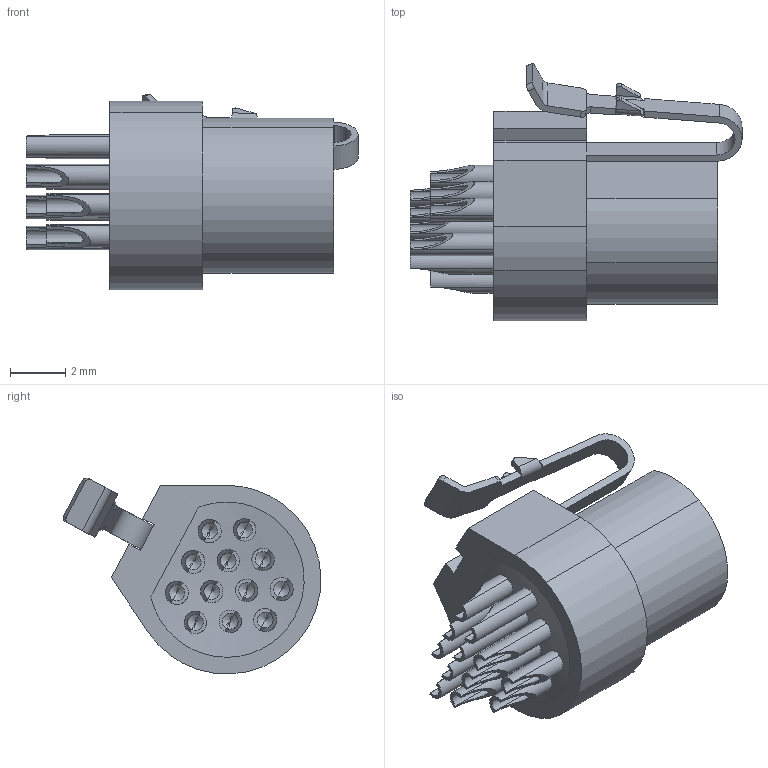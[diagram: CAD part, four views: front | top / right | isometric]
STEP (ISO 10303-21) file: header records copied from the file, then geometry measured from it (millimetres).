
FILE_DESCRIPTION (( 'STEP AP214' ), '1' );
FILE_NAME ('A22029-001 REV C.STEP', '2014-04-21T20:59:58', ( '' ), ( '' ), 'SwSTEP 2.0', 'SolidWorks 2012', '' );
FILE_SCHEMA (( 'AUTOMOTIVE_DESIGN' ));
Length unit declared in the file: inch
Products named in the file (1): A22029-001
Bounding box: 12.06 x 9.37 x 7.12 mm (x, y, z)
Volume: 198.1 mm3; surface area: 695.9 mm2
Topology: 1 solids, 1 shells, 279 faces, 631 edges, 381 vertices
Faces by surface type: cylinder 156, plane 94, cone 24, bspline 5
Entity records: 8598 total; most frequent: CARTESIAN_POINT 2414, DIRECTION 1309, ORIENTED_EDGE 1214, EDGE_CURVE 607, AXIS2_PLACEMENT_3D 501, VERTEX_POINT 381, EDGE_LOOP 330, VECTOR 307
